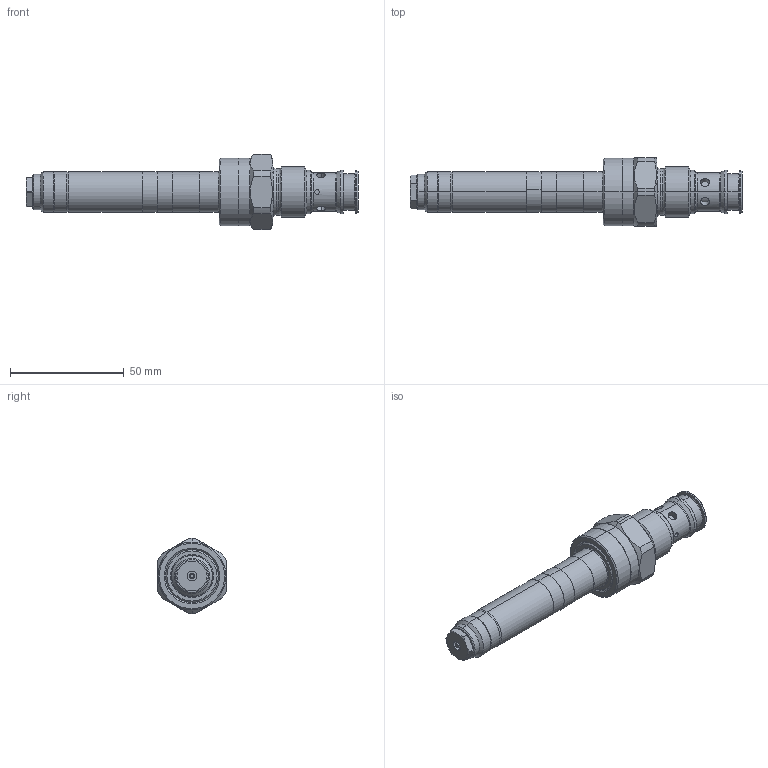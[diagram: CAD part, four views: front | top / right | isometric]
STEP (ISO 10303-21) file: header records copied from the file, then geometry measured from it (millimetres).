
FILE_DESCRIPTION (( 'STEP AP214' ), '1' );
FILE_NAME ('DNBPM22-X5.STEP', '2015-07-22T08:43:02', ( '' ), ( '' ), 'SwSTEP 2.0', 'SolidWorks 2014', '' );
FILE_SCHEMA (( 'AUTOMOTIVE_DESIGN' ));
Length unit declared in the file: millimetre
Products named in the file (2): DNBPM22-X5
Bounding box: 146 x 30 x 33 mm (x, y, z)
Volume: 48093.2 mm3; surface area: 13344.1 mm2
Topology: 3 solids, 5 shells, 230 faces, 509 edges, 310 vertices
Faces by surface type: cylinder 93, cone 54, plane 41, torus 34, bspline 8
Entity records: 9703 total; most frequent: CARTESIAN_POINT 2051, DIRECTION 1169, ORIENTED_EDGE 1018, EDGE_CURVE 509, AXIS2_PLACEMENT_3D 504, VERTEX_POINT 310, CIRCLE 280, EDGE_LOOP 259
